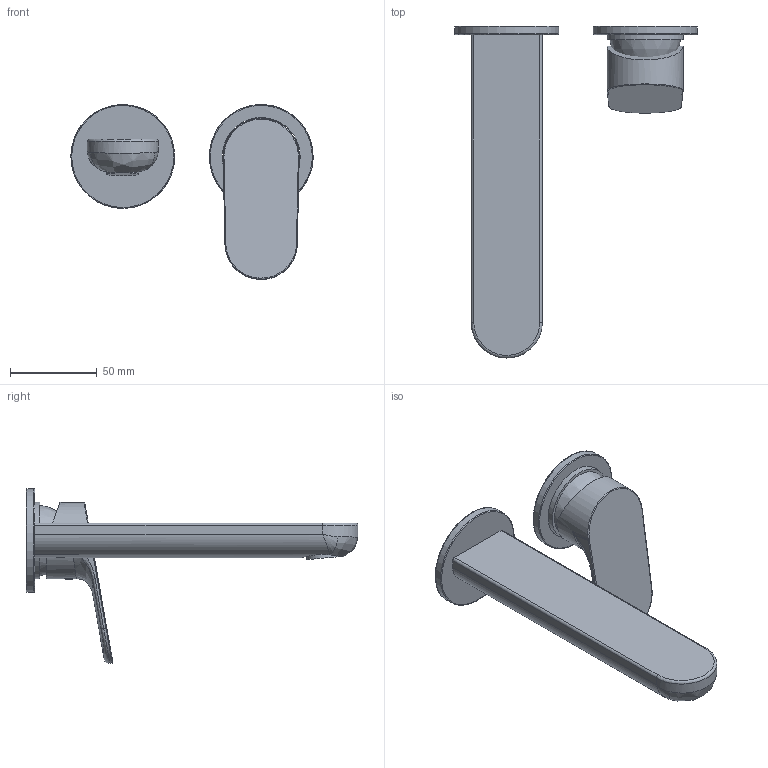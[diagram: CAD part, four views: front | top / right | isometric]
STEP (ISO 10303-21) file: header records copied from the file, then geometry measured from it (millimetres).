
FILE_DESCRIPTION(('STEP AP203'),'2;1');
FILE_NAME('ZKK673.stp','2019-05-17T15:47:46',(''),(''),'2015.2.119','THINKDESIGN','');
FILE_SCHEMA(('CONFIG_CONTROL_DESIGN'));
Length unit declared in the file: millimetre
Bounding box: 139.97 x 191.8 x 101.03 mm (x, y, z)
Volume: 220191.7 mm3; surface area: 51877.3 mm2
Topology: 8 solids, 8 shells, 97 faces, 227 edges, 147 vertices
Faces by surface type: bspline 41, plane 29, cylinder 27
Full cylindrical faces by diameter (mm): 17 x1, 18.5 x1, 23 x1, 24 x1, 24.5 x1, 44 x1, 44.2 x1, 45 x2, 60 x2
Entity records: 8301 total; most frequent: CARTESIAN_POINT 6356, ORIENTED_EDGE 446, DIRECTION 254, EDGE_CURVE 223, VERTEX_POINT 147, EDGE_LOOP 104, B_SPLINE_CURVE_WITH_KNOTS 102, AXIS2_PLACEMENT_3D 101
